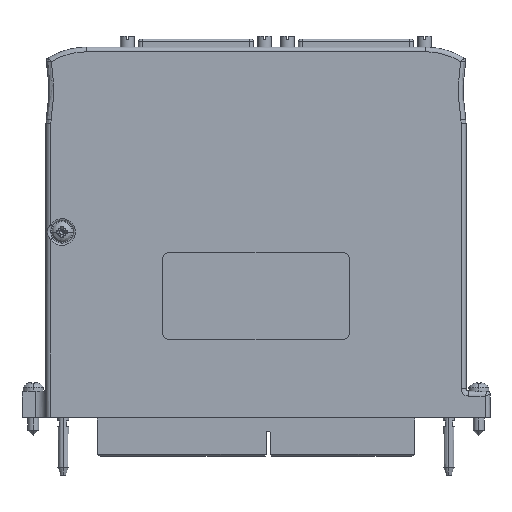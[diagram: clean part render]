
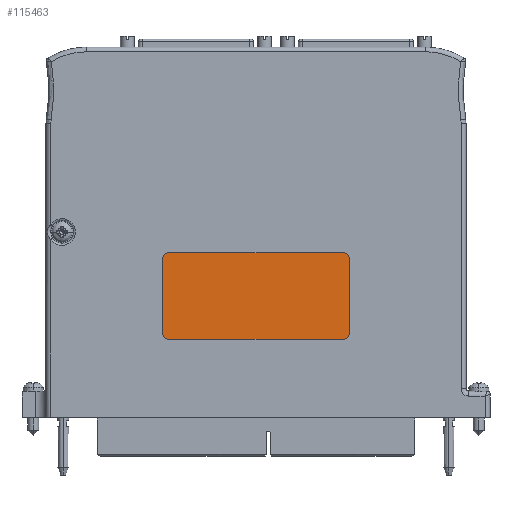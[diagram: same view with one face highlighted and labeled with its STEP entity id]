
A CAD part, left-side view. The second image highlights one B-rep face of the part: STEP entity #115463.
In plain terms, the highlighted planar face has unit normal (-1, 0, 0).
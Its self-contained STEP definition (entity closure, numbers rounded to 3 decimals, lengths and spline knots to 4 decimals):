
#37069=CARTESIAN_POINT('',(-0.389,-0.943,1.704));
#37070=DIRECTION('',(-1.,0.,0.));
#37071=DIRECTION('',(0.,-1.,0.));
#37072=AXIS2_PLACEMENT_3D('',#37069,#37070,#37071);
#37074=DIRECTION('',(0.,0.,1.));
#37075=VECTOR('',#37074,0.792);
#37076=CARTESIAN_POINT('',(-0.389,-1.015,0.912));
#37077=LINE('',#37076,#37075);
#37078=CARTESIAN_POINT('',(-0.389,-0.943,0.912));
#37079=DIRECTION('',(-1.,0.,0.));
#37080=DIRECTION('',(0.,0.,-1.));
#37081=AXIS2_PLACEMENT_3D('',#37078,#37079,#37080);
#37083=DIRECTION('',(0.,-1.,0.));
#37084=VECTOR('',#37083,1.886);
#37085=CARTESIAN_POINT('',(-0.389,0.943,0.84));
#37086=LINE('',#37085,#37084);
#37087=CARTESIAN_POINT('',(-0.389,0.943,0.912));
#37088=DIRECTION('',(-1.,0.,0.));
#37089=DIRECTION('',(0.,1.,0.));
#37090=AXIS2_PLACEMENT_3D('',#37087,#37088,#37089);
#37092=DIRECTION('',(0.,0.,-1.));
#37093=VECTOR('',#37092,0.792);
#37094=CARTESIAN_POINT('',(-0.389,1.015,1.704));
#37095=LINE('',#37094,#37093);
#37096=CARTESIAN_POINT('',(-0.389,0.943,1.704));
#37097=DIRECTION('',(-1.,0.,0.));
#37098=DIRECTION('',(0.,0.,1.));
#37099=AXIS2_PLACEMENT_3D('',#37096,#37097,#37098);
#37101=DIRECTION('',(0.,1.,0.));
#37102=VECTOR('',#37101,1.886);
#37103=CARTESIAN_POINT('',(-0.389,-0.943,1.776));
#37104=LINE('',#37103,#37102);
#54111=CARTESIAN_POINT('',(-0.389,-1.015,1.704));
#54112=CARTESIAN_POINT('',(-0.389,-0.943,1.776));
#54113=VERTEX_POINT('',#54111);
#54114=VERTEX_POINT('',#54112);
#54115=CARTESIAN_POINT('',(-0.389,0.943,1.776));
#54116=VERTEX_POINT('',#54115);
#54117=CARTESIAN_POINT('',(-0.389,1.015,1.704));
#54118=VERTEX_POINT('',#54117);
#54119=CARTESIAN_POINT('',(-0.389,1.015,0.912));
#54120=VERTEX_POINT('',#54119);
#54121=CARTESIAN_POINT('',(-0.389,0.943,0.84));
#54122=VERTEX_POINT('',#54121);
#54123=CARTESIAN_POINT('',(-0.389,-0.943,0.84));
#54124=VERTEX_POINT('',#54123);
#54125=CARTESIAN_POINT('',(-0.389,-1.015,0.912));
#54126=VERTEX_POINT('',#54125);
#115448=CARTESIAN_POINT('',(-0.389,0.,0.));
#115449=DIRECTION('',(-1.,0.,0.));
#115450=DIRECTION('',(0.,0.,-1.));
#115451=AXIS2_PLACEMENT_3D('',#115448,#115449,#115450);
#115452=PLANE('',#115451);
#115453=ORIENTED_EDGE('',*,*,#115344,.F.);
#115454=ORIENTED_EDGE('',*,*,#115359,.F.);
#115455=ORIENTED_EDGE('',*,*,#115373,.F.);
#115456=ORIENTED_EDGE('',*,*,#115387,.F.);
#115457=ORIENTED_EDGE('',*,*,#115401,.F.);
#115458=ORIENTED_EDGE('',*,*,#115415,.F.);
#115459=ORIENTED_EDGE('',*,*,#115429,.F.);
#115460=ORIENTED_EDGE('',*,*,#115442,.F.);
#115461=EDGE_LOOP('',(#115453,#115454,#115455,#115456,#115457,#115458,#115459,
#115460));
#115462=FACE_OUTER_BOUND('',#115461,.F.);
#115463=ADVANCED_FACE('',(#115462),#115452,.T.);
#37073=CIRCLE('',#37072,0.072);
#37082=CIRCLE('',#37081,0.072);
#37091=CIRCLE('',#37090,0.072);
#37100=CIRCLE('',#37099,0.072);
#115344=EDGE_CURVE('',#54113,#54114,#37073,.T.);
#115359=EDGE_CURVE('',#54126,#54113,#37077,.T.);
#115373=EDGE_CURVE('',#54124,#54126,#37082,.T.);
#115387=EDGE_CURVE('',#54122,#54124,#37086,.T.);
#115401=EDGE_CURVE('',#54120,#54122,#37091,.T.);
#115415=EDGE_CURVE('',#54118,#54120,#37095,.T.);
#115429=EDGE_CURVE('',#54116,#54118,#37100,.T.);
#115442=EDGE_CURVE('',#54114,#54116,#37104,.T.);
